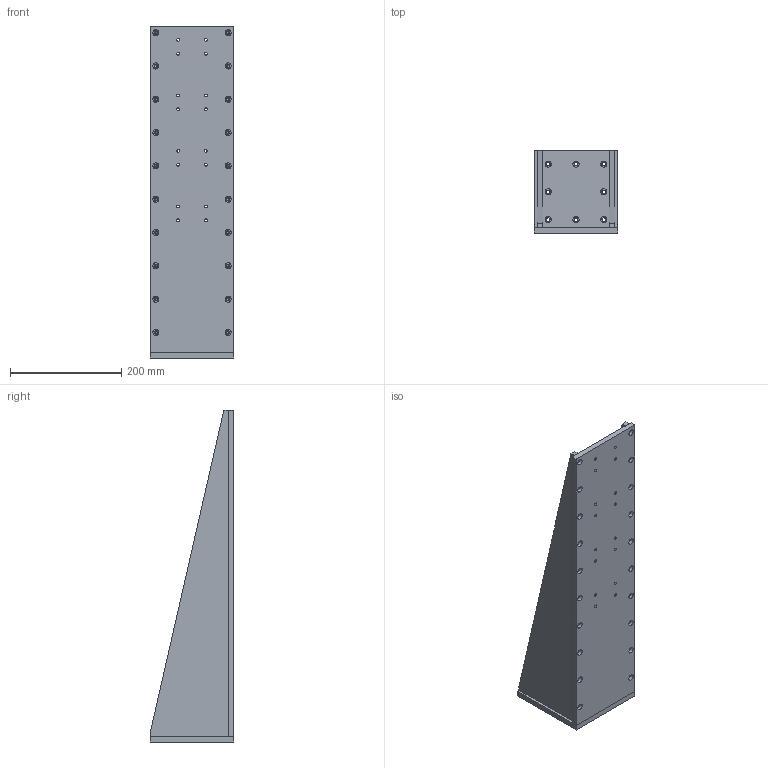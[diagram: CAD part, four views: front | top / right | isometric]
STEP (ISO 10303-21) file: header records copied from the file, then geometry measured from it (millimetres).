
FILE_DESCRIPTION (( 'STEP AP203' ), '1' );
FILE_NAME ('PJK11.STEP', '2020-11-07T05:44:33', ( '' ), ( '' ), 'SwSTEP 2.0', 'SolidWorks 2016', '' );
FILE_SCHEMA (( 'CONFIG_CONTROL_DESIGN' ));
Length unit declared in the file: millimetre
Products named in the file (4): PJK11菁啣; PJK11樓Ч踐; PJK11蕾啣; PJK11
Assembly tree (4 placements, depth 2):
  PJK11
    PJK11菁啣
    PJK11蕾啣
    PJK11樓Ч踐  x2
Bounding box: 150 x 150.5 x 598 mm (x, y, z)
Volume: 1964502.2 mm3; surface area: 456760.9 mm2
Topology: 4 solids, 4 shells, 166 faces, 370 edges, 240 vertices
Faces by surface type: cylinder 92, plane 54, cone 20
Full cylindrical faces by diameter (mm): 5 x36, 6.5 x28, 11 x28
Entity records: 3955 total; most frequent: DIRECTION 659, CARTESIAN_POINT 539, ORIENTED_EDGE 406, EDGE_LOOP 347, AXIS2_PLACEMENT_3D 310, FACE_OUTER_BOUND 221, EDGE_CURVE 203, VERTEX_POINT 190
